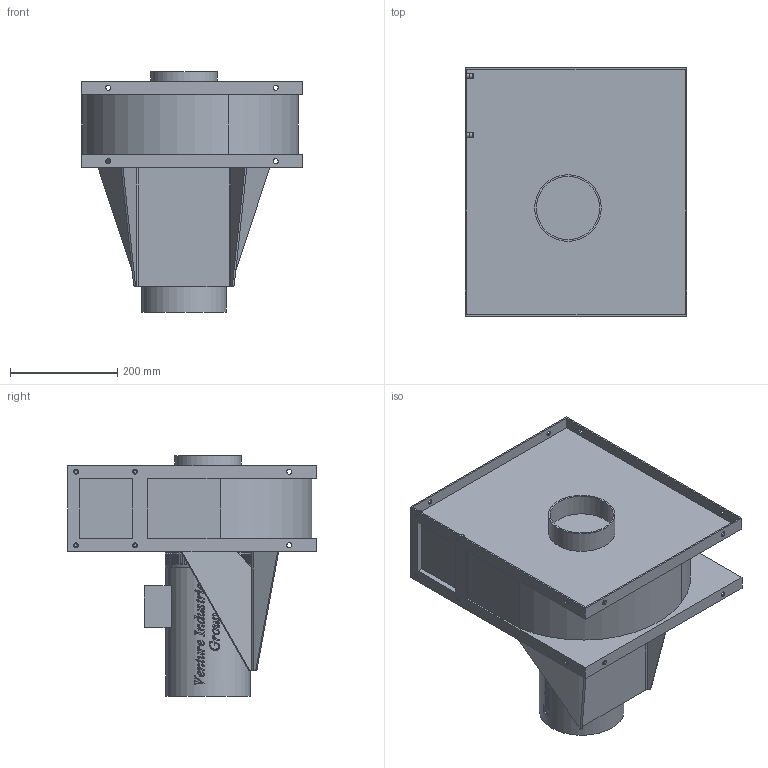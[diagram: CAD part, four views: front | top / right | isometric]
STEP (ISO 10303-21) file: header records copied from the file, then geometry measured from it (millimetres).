
FILE_DESCRIPTION(/* description */ (''),/* implementation_level */ '2;1');
FILE_NAME(/* name */ 'E:\Mariusz\Modele uproszczone\GMT-HT\Katalogowe\GMT_HT_130_110T RD90 43552435\GMT_HT_130_110T RD90 43552435\GMT_HT_130_110T RD90 43552435.stp',/* time_stamp */ '2019-10-31T09:20:33+01:00',/* author */ ('M.Janczarek'),/* organization */ (''),/* preprocessor_version */ 'ST-DEVELOPER v16.13',/* originating_system */ 'Autodesk Inventor 2018',/* authorisation */ '');
FILE_SCHEMA (('AUTOMOTIVE_DESIGN { 1 0 10303 214 3 1 1 }'));
Products named in the file (1): GMT_HT_130_110T RD90 43552435
Bounding box: 412 x 462 x 447.3 mm (x, y, z)
Volume: 24236612.5 mm3; surface area: 1194466.9 mm2
Topology: 1 solids, 1 shells, 1222 faces, 3305 edges, 2198 vertices
Faces by surface type: bspline 741, cylinder 268, plane 201, cone 12
Full cylindrical faces by diameter (mm): 6 x4, 6.6 x4, 8.9 x4, 9.2 x18, 118 x1, 124 x1, 158 x1, 160 x1, 370 x1
Entity records: 54393 total; most frequent: CARTESIAN_POINT 27869, ORIENTED_EDGE 6502, EDGE_CURVE 3251, DIRECTION 3159, VERTEX_POINT 2192, LINE 1573, VECTOR 1573, EDGE_LOOP 1423
